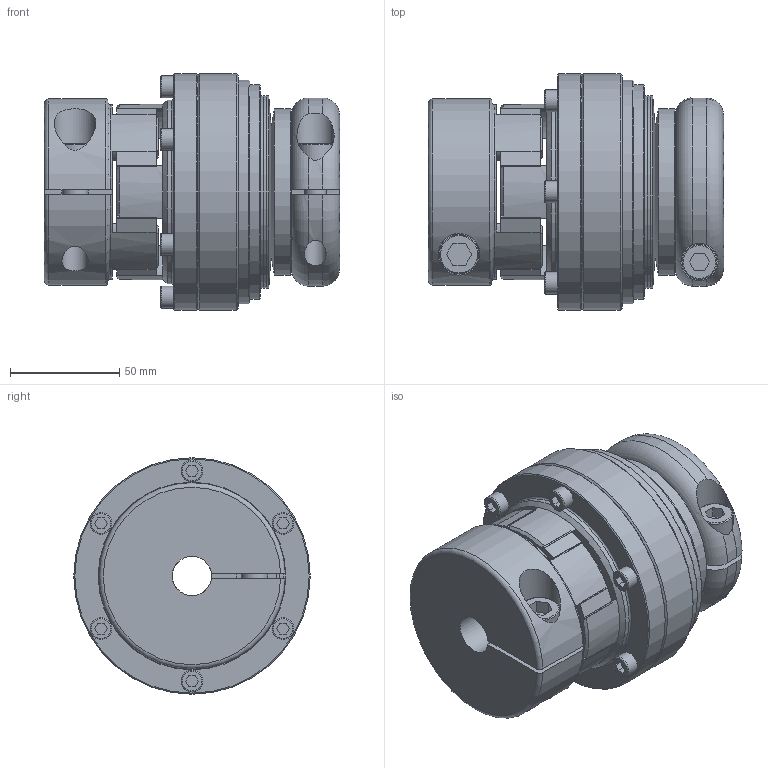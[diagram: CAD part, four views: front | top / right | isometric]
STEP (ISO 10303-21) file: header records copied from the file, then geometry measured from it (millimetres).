
FILE_DESCRIPTION(/* description */ ('Unknown'),/* implementation_level */ '2;1');
FILE_NAME(/* name */ 'SKVA-EK 220',/* time_stamp */ '2025-02-12T14:27:24+01:00',/* author */ ('Unknown'),/* organization */ ('Unknown'),/* preprocessor_version */ 'ST-DEVELOPER v18.102',/* originating_system */ 'Solid Edge',/* authorisation */ 'Unknown');
FILE_SCHEMA (('AUTOMOTIVE_DESIGN {1 0 10303 214 3 1 1}'));
Length unit declared in the file: millimetre
Products named in the file (1): SKVA-EK 220
Bounding box: 134.8 x 108 x 108 mm (x, y, z)
Volume: 743976.2 mm3; surface area: 101757.5 mm2
Topology: 1 solids, 2 shells, 274 faces, 747 edges, 476 vertices
Faces by surface type: plane 111, bspline 68, cylinder 50, cone 31, torus 14
Full cylindrical faces by diameter (mm): 10 x8, 12 x3, 16 x1, 17 x1, 18 x2, 19 x1, 40.31 x1, 49 x1, 76 x1, 84 x1, 98 x1, 102 x1, 108 x2
Entity records: 8933 total; most frequent: CARTESIAN_POINT 2689, ORIENTED_EDGE 1368, DIRECTION 1074, EDGE_CURVE 684, VERTEX_POINT 461, AXIS2_PLACEMENT_3D 399, EDGE_LOOP 357, FACE_BOUND 357
